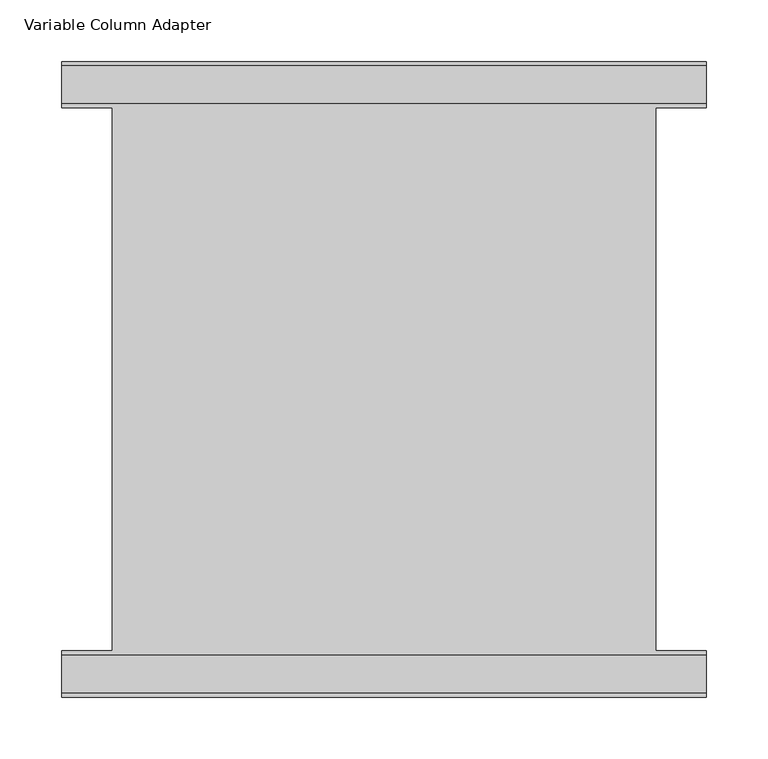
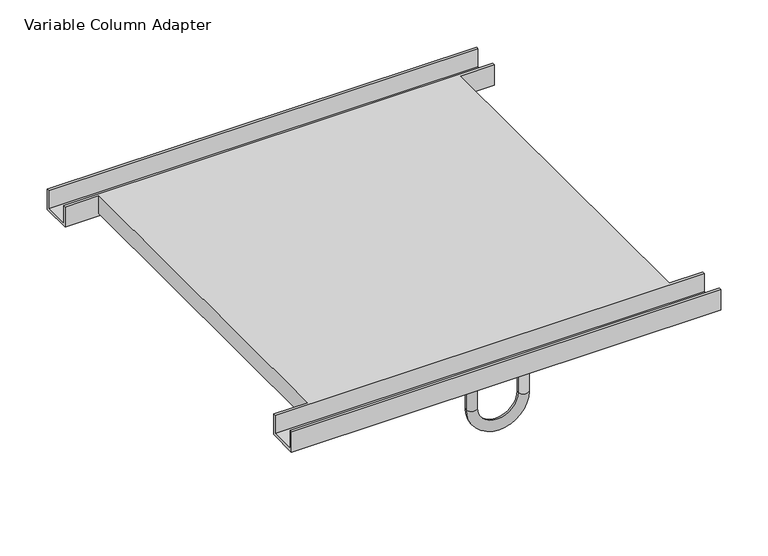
"""IFC4 building model written with IfcOpenShell, lengths in millimetres: proxy geometry, Adapter-Column_Mount_Variable-Chief-Flat_Panel_Mount : Variable Column Adapter."""

from ifc_helpers import new_model, si_unit, point, frame, origin, place, context, project, spatial, circle_curve, ellipse_curve, trimmed, faceted_brep, source, transform, mapped, element, save
from ifc_brep_helpers import plane_surface, cylinder_surface, revolved_surface, advanced_brep


def variable_column_adapter_a97fb514(model_context):
    return source(origin(), model_context, "Body", "SolidModel", [
        advanced_brep(
        [(-25.4, 239.4585, 9.652), (-38.1, 239.4585, 9.652), (-25.4, 239.4585, -25.4), (-38.1, 239.4585, -25.4), (38.1, 239.4585, -25.4), (25.4, 239.4585, -25.4), (25.4, 239.4585, 9.652), (38.1, 239.4585, 9.652)],
        [
            (0, 1, circle_curve(frame((-31.75, 239.4585, 9.652), z_axis=(0.0, 0.0, 1.0), x_axis=(-1.0, 0.0, 0.0)), 6.35)),
            (1, 0, circle_curve(frame((-31.75, 239.4585, 9.652), z_axis=(0.0, 0.0, 1.0), x_axis=(-1.0, 0.0, 0.0)), 6.35)),
            (0, 2),
            (2, 3, circle_curve(frame((-31.75, 239.4585, -25.4), z_axis=(0.0, 0.0, 1.0), x_axis=(-1.0, 0.0, 0.0)), 6.35)),
            (3, 1),
            (3, 2, circle_curve(frame((-31.75, 239.4585, -25.4), z_axis=(0.0, 0.0, 1.0), x_axis=(-1.0, 0.0, 0.0)), 6.35)),
            (4, 3, circle_curve(frame((0.0, 239.4585, -25.4), z_axis=(0.0, 1.0, 0.0), x_axis=(-1.0, 0.0, 0.0)), 38.1)),
            (2, 5, circle_curve(frame((0.0, 239.4585, -25.4), z_axis=(0.0, -1.0, 0.0), x_axis=(-1.0, 0.0, 0.0)), 25.4)),
            (5, 4, circle_curve(frame((31.75, 239.4585, -25.4), z_axis=(-2.4940050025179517e-12, 0.0, -1.0), x_axis=(1.0, 0.0, -2.4940050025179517e-12)), 6.35)),
            (4, 5, circle_curve(frame((31.75, 239.4585, -25.4), z_axis=(-1.6608936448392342e-12, 0.0, -1.0), x_axis=(1.0, 0.0, -1.6608936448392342e-12)), 6.35)),
            (6, 7, circle_curve(frame((31.75, 239.4585, 9.652), z_axis=(0.0, 0.0, 1.0), x_axis=(1.0, 0.0, 0.0)), 6.35)),
            (7, 6, circle_curve(frame((31.75, 239.4585, 9.652), z_axis=(0.0, 0.0, 1.0), x_axis=(1.0, 0.0, 0.0)), 6.35)),
            (5, 6),
            (7, 4),
        ],
        [
            plane_surface(frame((-25.4, 0.0, 9.652), z_axis=(0.0, 0.0, 1.0), x_axis=(0.0, -1.0, 0.0))),
            cylinder_surface(frame((-31.75, 239.4585, 9.652), z_axis=(0.0, 0.0, 1.0), x_axis=(-1.0, 0.0, 0.0)), 6.35),
            revolved_surface(trimmed(ellipse_curve(frame((-31.75, 239.4585, -25.4), z_axis=(0.0, 0.0, 1.0), x_axis=(-1.0, 0.0, 0.0)), 6.35, 6.35), [point((-25.4, 239.4585, -25.4))], [point((-38.1, 239.4585, -25.4))], True, "CARTESIAN"), (0.0, 0.0, -25.4), (0.0, -1.0, 0.0)),
            revolved_surface(trimmed(ellipse_curve(frame((-31.75, 239.4585, -25.4), z_axis=(0.0, 0.0, 1.0), x_axis=(-1.0, 0.0, 0.0)), 6.35, 6.35), [point((-38.1, 239.4585, -25.4))], [point((-25.4, 239.4585, -25.4))], True, "CARTESIAN"), (0.0, 0.0, -25.4), (0.0, -1.0, 0.0)),
            plane_surface(frame((25.4, 0.0, 9.652), z_axis=(0.0, 0.0, 1.0), x_axis=(0.0, -1.0, 0.0))),
            cylinder_surface(frame((31.75, 239.4585, -25.4), z_axis=(0.0, 0.0, -1.0), x_axis=(1.0, 0.0, 0.0)), 6.35),
        ],
        [
            (0, [[1, 2]]),
            (1, [[-1, 3, 4, 5]]),
            (1, [[-2, -5, 6, -3]]),
            (2, [[7, -4, 8, 9]]),
            (3, [[-8, -6, -7, 10]]),
            (4, [[11, 12]]),
            (5, [[-9, 13, -12, 14]]),
            (5, [[-10, -14, -11, -13]]),
        ],
    ),
        advanced_brep(
        [(-25.4, -239.4585, 9.652), (-38.1, -239.4585, 9.652), (-25.4, -239.4585, -25.4), (-38.1, -239.4585, -25.4), (38.1, -239.4585, -25.4), (25.4, -239.4585, -25.4), (25.4, -239.4585, 9.652), (38.1, -239.4585, 9.652)],
        [
            (0, 1, circle_curve(frame((-31.75, -239.4585, 9.652), z_axis=(0.0, 0.0, 1.0), x_axis=(-1.0, 0.0, 0.0)), 6.35)),
            (1, 0, circle_curve(frame((-31.75, -239.4585, 9.652), z_axis=(0.0, 0.0, 1.0), x_axis=(-1.0, 0.0, 0.0)), 6.35)),
            (0, 2),
            (2, 3, circle_curve(frame((-31.75, -239.4585, -25.4), z_axis=(0.0, 0.0, 1.0), x_axis=(-1.0, 0.0, 0.0)), 6.35)),
            (3, 1),
            (3, 2, circle_curve(frame((-31.75, -239.4585, -25.4), z_axis=(0.0, 0.0, 1.0), x_axis=(-1.0, 0.0, 0.0)), 6.35)),
            (4, 3, circle_curve(frame((0.0, -239.4585, -25.4), z_axis=(0.0, 1.0, 0.0), x_axis=(-1.0, 0.0, 0.0)), 38.1)),
            (2, 5, circle_curve(frame((0.0, -239.4585, -25.4), z_axis=(0.0, -1.0, 0.0), x_axis=(-1.0, 0.0, 0.0)), 25.4)),
            (5, 4, circle_curve(frame((31.75, -239.4585, -25.4), z_axis=(-2.4935609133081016e-12, 0.0, -1.0), x_axis=(1.0, 0.0, -2.4935609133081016e-12)), 6.35)),
            (4, 5, circle_curve(frame((31.75, -239.4585, -25.4), z_axis=(-1.6604495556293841e-12, 0.0, -1.0), x_axis=(1.0, 0.0, -1.6604495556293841e-12)), 6.35)),
            (6, 7, circle_curve(frame((31.75, -239.4585, 9.652), z_axis=(0.0, 0.0, 1.0), x_axis=(1.0, 0.0, 0.0)), 6.35)),
            (7, 6, circle_curve(frame((31.75, -239.4585, 9.652), z_axis=(0.0, 0.0, 1.0), x_axis=(1.0, 0.0, 0.0)), 6.35)),
            (5, 6),
            (7, 4),
        ],
        [
            plane_surface(frame((-25.4, 0.0, 9.652), z_axis=(0.0, 0.0, 1.0), x_axis=(0.0, -1.0, 0.0))),
            cylinder_surface(frame((-31.75, -239.4585, 9.652), z_axis=(0.0, 0.0, 1.0), x_axis=(-1.0, 0.0, 0.0)), 6.35),
            revolved_surface(trimmed(ellipse_curve(frame((-31.75, -239.4585, -25.4), z_axis=(0.0, 0.0, 1.0), x_axis=(-1.0, 0.0, 0.0)), 6.35, 6.35), [point((-25.4, -239.4585, -25.4))], [point((-38.1, -239.4585, -25.4))], True, "CARTESIAN"), (0.0, 0.0, -25.4), (0.0, -1.0, 0.0)),
            revolved_surface(trimmed(ellipse_curve(frame((-31.75, -239.4585, -25.4), z_axis=(0.0, 0.0, 1.0), x_axis=(-1.0, 0.0, 0.0)), 6.35, 6.35), [point((-38.1, -239.4585, -25.4))], [point((-25.4, -239.4585, -25.4))], True, "CARTESIAN"), (0.0, 0.0, -25.4), (0.0, -1.0, 0.0)),
            plane_surface(frame((25.4, 0.0, 9.652), z_axis=(0.0, 0.0, 1.0), x_axis=(0.0, -1.0, 0.0))),
            cylinder_surface(frame((31.75, -239.4585, -25.4), z_axis=(0.0, 0.0, -1.0), x_axis=(1.0, 0.0, 0.0)), 6.35),
        ],
        [
            (0, [[1, 2]]),
            (1, [[-1, 3, 4, 5]]),
            (1, [[-2, -5, 6, -3]]),
            (2, [[7, -4, 8, 9]]),
            (3, [[-8, -6, -7, 10]]),
            (4, [[11, 12]]),
            (5, [[-9, 13, -12, 14]]),
            (5, [[-10, -14, -11, -13]]),
        ],
    ),
        faceted_brep([(220.726, -220.726, 36.068), (220.726, 220.726, 36.068), (262.001, 220.726, 36.068), (262.001, 223.774, 36.068), (-262.001, 223.774, 36.068), (-262.001, 220.726, 36.068), (-220.726, 220.726, 36.068), (-220.726, -220.726, 36.068), (-262.001, -220.726, 36.068), (-262.001, -223.774, 36.068), (262.001, -223.774, 36.068), (262.001, -220.726, 36.068), (-220.726, 220.726, 12.7), (-220.726, -220.726, 12.7), (-217.678, 220.726, 12.7), (-217.678, -220.726, 12.7), (-217.678, 220.726, 33.02), (-217.678, -220.726, 33.02), (217.678, 220.726, 33.02), (217.678, -220.726, 33.02), (217.678, 220.726, 12.7), (217.678, -220.726, 12.7), (220.726, 220.726, 12.7), (220.726, -220.726, 12.7), (262.001, -255.143, 36.068), (262.001, -258.191, 36.068), (262.001, -258.191, 9.652), (262.001, -220.726, 9.652), (262.001, -223.774, 12.7), (262.001, -255.143, 12.7), (262.001, 220.726, 9.652), (262.001, 258.191, 9.652), (262.001, 258.191, 36.068), (262.001, 255.143, 36.068), (262.001, 255.143, 12.7), (262.001, 223.774, 12.7), (-262.001, 223.774, 12.7), (-262.001, 255.143, 12.7), (-262.001, 255.143, 36.068), (-262.001, 258.191, 36.068), (-262.001, 258.191, 9.652), (-262.001, 220.726, 9.652), (-262.001, -255.143, 36.068), (-262.001, -255.143, 12.7), (-262.001, -223.774, 12.7), (-262.001, -220.726, 9.652), (-262.001, -258.191, 9.652), (-262.001, -258.191, 36.068)], [[[0, 1, 2, 3, 4, 5, 6, 7, 8, 9, 10, 11]], [[7, 6, 12, 13]], [[13, 12, 14, 15]], [[15, 14, 16, 17]], [[17, 16, 18, 19]], [[19, 18, 20, 21]], [[21, 20, 22, 23]], [[1, 0, 23, 22]], [[24, 25, 26, 27, 11, 10, 28, 29]], [[2, 30, 31, 32, 33, 34, 35, 3]], [[5, 4, 36, 37, 38, 39, 40, 41]], [[42, 43, 44, 9, 8, 45, 46, 47]], [[25, 24, 42, 47]], [[26, 25, 47, 46]], [[27, 26, 46, 45]], [[11, 27, 45, 8, 7, 13, 15, 17, 19, 21, 23, 0]], [[30, 2, 1, 22, 20, 18, 16, 14, 12, 6, 5, 41]], [[31, 30, 41, 40]], [[32, 31, 40, 39]], [[33, 32, 39, 38]], [[34, 33, 38, 37]], [[35, 34, 37, 36]], [[3, 35, 36, 4]], [[28, 10, 9, 44]], [[29, 28, 44, 43]], [[24, 29, 43, 42]]]),
    ])


if __name__ == "__main__":
    model = new_model("IFC4")
    model_context = context("Model", 3, world=origin())
    ifc_project = project(units=[si_unit("LENGTHUNIT", "METRE", prefix="MILLI")], contexts=[model_context])
    site = spatial("IfcSite", under=ifc_project)
    building = spatial("IfcBuilding", under=site)
    placement = place(None, origin())
    variable_column_adapter_shape = variable_column_adapter_a97fb514(model_context)
    element("IfcBuildingElementProxy", 1, Name="Adapter-Column_Mount_Variable-Chief-Flat_Panel_Mount : Variable Column Adapter", ObjectType="Adapter-Column_Mount_Variable-Chief-Flat_Panel_Mount : Variable Column Adapter", at=placement, inside=building, context=model_context, shape_type="MappedRepresentation", body=[
        mapped(variable_column_adapter_shape, transform((0.0, 0.0, 0.0), x_axis=(1.0, 0.0, 0.0), y_axis=(0.0, 1.0, 0.0), z_axis=(0.0, 0.0, 1.0))),
    ])
    save(model, "model.ifc")
